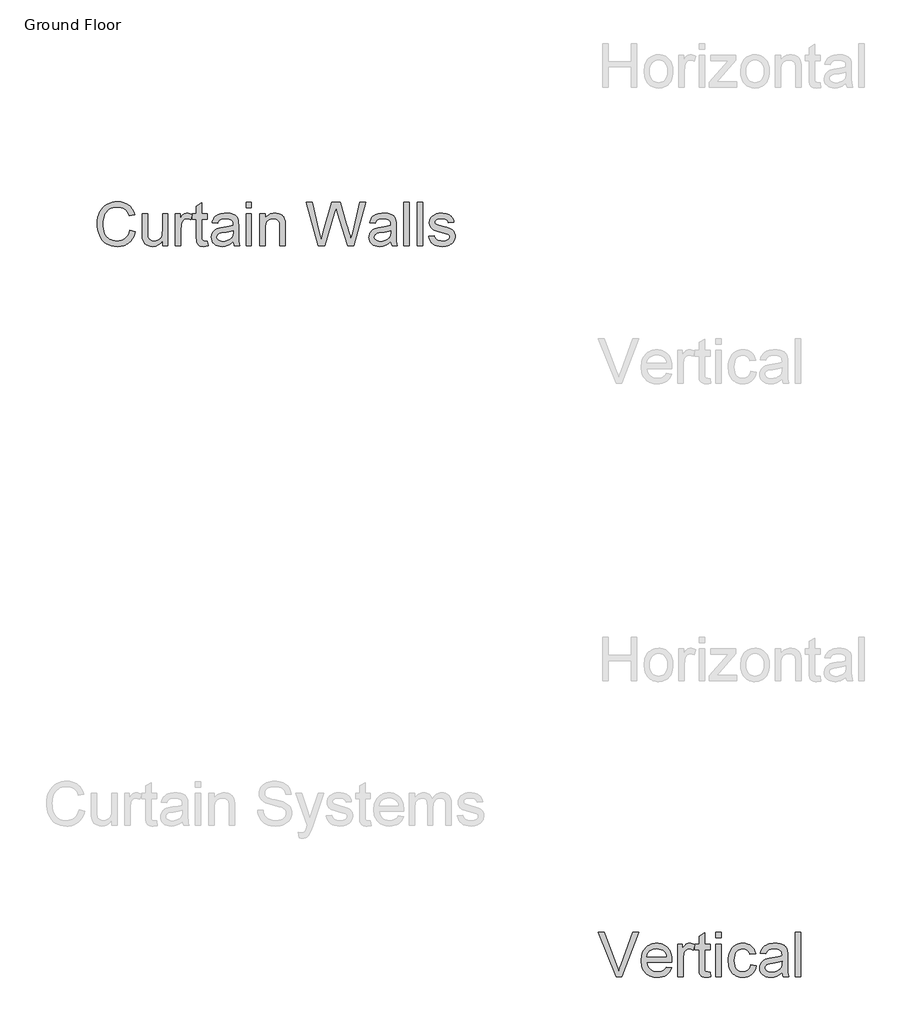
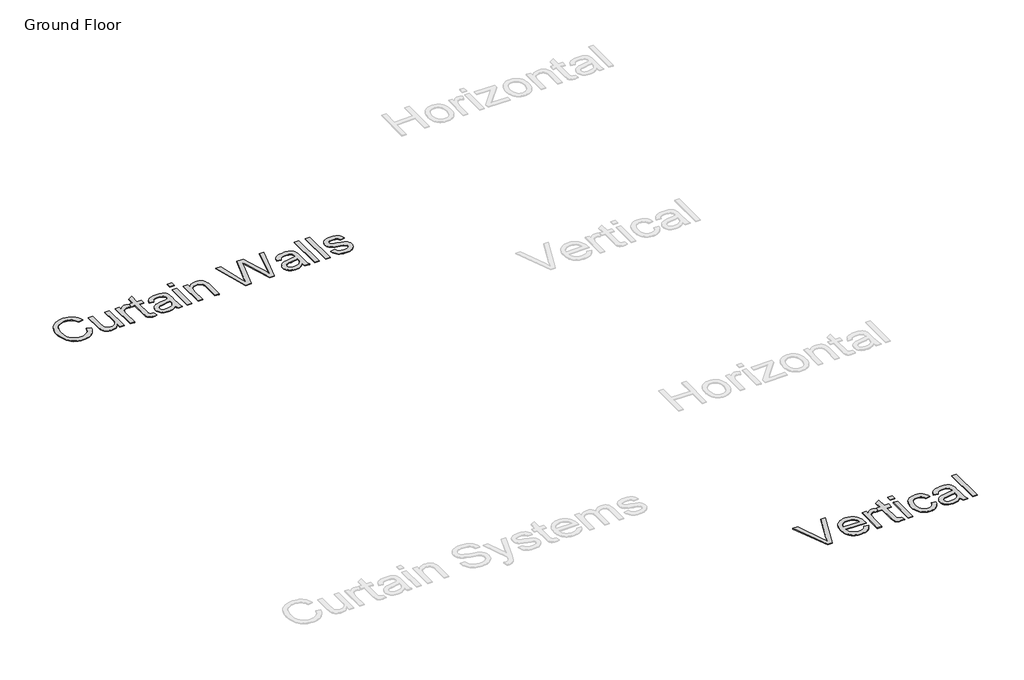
# One storey, part 4 of 12: 2 proxies.
"""IFC4 building model written with IfcOpenShell, lengths in millimetres."""

from ifc_helpers import new_model, si_unit, origin, origin_with_axes, place, context, project, spatial, polyline, outline, extrude, element, save

model = new_model("IFC4")

# Units and contexts
model_context = context("Model", 3, world=origin())
ifc_project = project(units=[si_unit("LENGTHUNIT", "METRE", prefix="MILLI")], contexts=[model_context])

# Site, building, storey
site = spatial("IfcSite", under=ifc_project)
building = spatial("IfcBuilding", under=site)
storey = spatial("IfcBuildingStorey", under=building, Name="Ground Floor", Elevation=0.0)

# Proxies
placement = place(None, origin())
element("IfcBuildingElementProxy", 1, Name="1200mm Arial", ObjectType="1200mm Arial", at=placement, inside=storey, context=model_context, shape_type="SweptSolid", body=[
    extrude(outline(polyline([(-30178.9270845, 12481.7519145), (-30032.0179936, 12443.8769145), (-30061.0877734, 12352.5160303), (-30079.2406942, 12311.1597403), (-30099.8056356, 12272.6862185), (-30122.7825976, 12237.0954647), (-30148.1715802, 12204.3874791), (-30175.9725834, 12174.5622616), (-30206.1856072, 12147.6198122), (-30238.48337, 12123.7125635), (-30272.5385902, 12102.9929479), (-30308.3512677, 12085.4609654), (-30345.9214027, 12071.1166162), (-30385.248995, 12059.9599001), (-30426.3340447, 12051.9908172), (-30469.1765518, 12047.2093674), (-30513.7765163, 12045.6155509), (-30603.3620099, 12050.439592), (-30684.1781498, 12064.9117156), (-30756.2249361, 12089.0319216), (-30819.5023686, 12122.8002099), (-30874.8802095, 12165.71445), (-30923.2282209, 12217.2725111), (-30964.5464027, 12277.4743932), (-30998.8347549, 12346.3200963), (-31025.7615128, 12420.8327028), (-31044.9949112, 12498.0352952), (-31056.5349503, 12577.9278733), (-31060.3816299, 12660.5104372), (-31056.0328196, 12749.1185693), (-31042.9863885, 12831.8804656), (-31021.2423366, 12908.7961261), (-30990.800664, 12979.8655509), (-30952.3428338, 13043.9141126), (-30906.5503089, 13099.7671844), (-30853.4230895, 13147.424766), (-30792.9611754, 13186.8868577), (-30727.2179226, 13217.8306609), (-30658.2466868, 13239.9333776), (-30586.047468, 13253.1950075), (-30510.6202663, 13257.6155509), (-30426.5940767, 13251.8948477), (-30349.5439169, 13234.7327384), (-30313.6348482, 13221.8611563), (-30279.4697869, 13206.1292227), (-30247.0487331, 13187.5369376), (-30216.3716868, 13166.0843009), (-30187.6986798, 13142.0358278), (-30161.2897443, 13115.6560338), (-30137.1448801, 13086.9449187), (-30115.2640873, 13055.9024827), (-30078.2947159, 12986.8236474), (-30050.3816299, 12908.4195281), (-30197.2907209, 12873.4138463), (-30220.4245987, 12931.1857746), (-30248.2211186, 12980.5470139), (-30280.6802805, 13021.4975643), (-30317.8020845, 13054.0374259), (-30359.8017294, 13078.8301283), (-30406.894414, 13096.5392014), (-30459.0801385, 13107.1646453), (-30516.3589027, 13110.7064599), (-30582.2635547, 13106.7790807), (-30642.5371697, 13094.9969429), (-30697.1797478, 13075.3600466), (-30746.191289, 13047.8683918), (-30788.9530966, 13013.7593719), (-30824.8464737, 12974.2703804), (-30853.8714204, 12929.4014173), (-30876.0279368, 12879.1524827), (-30892.4099503, 12825.8010977), (-30904.1113885, 12771.6247838), (-30911.1322514, 12716.6235409), (-30913.472539, 12660.797369), (-30910.7018537, 12590.6425395), (-30902.3897976, 12525.078619), (-30888.5363707, 12464.1056077), (-30869.1415731, 12407.7235054), (-30843.8915731, 12357.0531396), (-30812.472539, 12313.2153378), (-30774.8844709, 12276.2100999), (-30731.1273686, 12246.0374259), (-30683.326321, 12222.6255828), (-30633.6064169, 12205.9028378), (-30581.9676562, 12195.8691908), (-30528.410039, 12192.5246418), (-30464.5408096, 12197.0796844), (-30405.7825532, 12210.7448122), (-30352.1352699, 12233.5200253), (-30303.5989595, 12265.4053236), (-30261.3213494, 12306.2572412), (-30226.4501669, 12355.9323122), (-30198.9854119, 12414.4305366), (-30178.9270845, 12481.7519145)])), origin_with_axes(), (0.0, 0.0, 1.0), 20.0),
    extrude(outline(polyline([(-29297.472539, 12063.9791872), (-29297.472539, 12212.3229372), (-29322.9556711, 12173.2508935), (-29350.6266584, 12139.3884557), (-29380.4855007, 12110.7356236), (-29412.5321981, 12087.2923974), (-29446.7667507, 12069.0587771), (-29483.1891584, 12056.0347625), (-29521.7994211, 12048.2203538), (-29562.597539, 12045.6155509), (-29598.9930469, 12047.4447412), (-29634.1511612, 12052.9323122), (-29668.0718821, 12062.0782639), (-29700.7552095, 12074.8825963), (-29730.7575177, 12090.4486474), (-29756.6351811, 12107.8797554), (-29778.3881996, 12127.1759202), (-29796.0165731, 12148.3371418), (-29810.4259304, 12171.6682852), (-29822.5218998, 12197.4742156), (-29839.7736754, 12256.5104372), (-29846.2296413, 12312.1752099), (-29848.3816299, 12393.0899827), (-29848.3816299, 12927.0700963), (-29701.472539, 12927.0700963), (-29701.472539, 12462.2405509), (-29699.2488174, 12369.2746418), (-29692.5776527, 12312.4621418), (-29683.7813991, 12285.9837149), (-29671.1653657, 12262.5001389), (-29654.7295525, 12242.0114138), (-29634.4739595, 12224.5175395), (-29611.0083167, 12210.5206467), (-29584.9423544, 12200.5228662), (-29556.2760724, 12194.5241979), (-29525.0094709, 12192.5246418), (-29492.8103409, 12194.569031), (-29461.6334055, 12200.7021986), (-29431.4786647, 12210.9241446), (-29402.3461186, 12225.234869), (-29375.813892, 12243.0694749), (-29353.4601101, 12263.8630651), (-29335.2847727, 12287.6156396), (-29321.2878799, 12314.3271986), (-29310.8686683, 12345.7013996), (-29303.4263743, 12383.4419003), (-29298.9609978, 12427.5487007), (-29297.472539, 12478.0218009), (-29297.472539, 12927.0700963), (-29150.5634481, 12927.0700963), (-29150.5634481, 12063.9791872), (-29297.472539, 12063.9791872)])), origin_with_axes(), (0.0, 0.0, 1.0), 20.0),
    extrude(outline(polyline([(-28948.5634481, 12063.9791872), (-28948.5634481, 12927.0700963), (-28820.0179936, 12927.0700963), (-28820.0179936, 12799.3854372), (-28795.8081214, 12840.2014884), (-28772.5307777, 12873.4138463), (-28750.1859623, 12899.0225111), (-28728.7736754, 12917.0274827), (-28707.325522, 12929.455217), (-28684.8731072, 12938.3321702), (-28661.4164311, 12943.658342), (-28636.9554936, 12945.4337327), (-28600.5151527, 12942.600281), (-28563.7878799, 12934.0999259), (-28526.7736754, 12919.9326673), (-28489.472539, 12900.0985054), (-28538.5378799, 12768.3968009), (-28564.3617436, 12781.5777312), (-28590.1856072, 12790.9926815), (-28616.0094709, 12796.6416517), (-28641.8333345, 12798.5246418), (-28664.3485156, 12796.7133847), (-28685.6980362, 12791.2796134), (-28705.8818963, 12782.2233278), (-28724.9000959, 12769.5445281), (-28742.0353054, 12753.6556787), (-28756.5701953, 12734.969244), (-28768.5047656, 12713.4852241), (-28777.8390163, 12689.203619), (-28788.258228, 12649.1048974), (-28795.700522, 12607.141119), (-28801.6543572, 12517.6183918), (-28801.6543572, 12063.9791872), (-28948.5634481, 12063.9791872)])), origin_with_axes(), (0.0, 0.0, 1.0), 20.0),
    extrude(outline(polyline([(-28085.472539, 12186.4990736), (-28067.1089027, 12059.6752099), (-28125.2843288, 12049.1304656), (-28177.003789, 12045.6155509), (-28214.502191, 12047.1398761), (-28247.5172834, 12051.712852), (-28276.049066, 12059.3344784), (-28300.097539, 12070.0047554), (-28320.2903657, 12083.1498193), (-28337.2552095, 12098.1958065), (-28350.9920703, 12115.142717), (-28361.5009481, 12133.9905509), (-28369.2839737, 12159.2584841), (-28374.8432777, 12195.4656929), (-28379.2907209, 12300.6979372), (-28379.2907209, 12780.1610054), (-28489.472539, 12780.1610054), (-28489.472539, 12927.0700963), (-28379.2907209, 12927.0700963), (-28379.2907209, 13136.8172554), (-28232.3816299, 13223.1837327), (-28232.3816299, 12927.0700963), (-28085.472539, 12927.0700963), (-28085.472539, 12780.1610054), (-28232.3816299, 12780.1610054), (-28232.3816299, 12305.0019145), (-28230.4448402, 12256.6539031), (-28224.6344709, 12229.2519145), (-28214.4842578, 12214.0803946), (-28199.5279368, 12202.4237895), (-28178.3308487, 12194.9994287), (-28149.4583345, 12192.5246418), (-28085.472539, 12186.4990736)])), origin_with_axes(), (0.0, 0.0, 1.0), 20.0),
    extrude(outline(polyline([(-27387.6543572, 12174.1610054), (-27422.4896733, 12141.4687114), (-27457.8450532, 12113.9770565), (-27493.7204971, 12091.6860409), (-27530.1160049, 12074.5956645), (-27567.4440412, 12061.9168648), (-27606.1170703, 12052.8605793), (-27646.1350923, 12047.426808), (-27687.4981072, 12045.6155509), (-27752.9095951, 12049.9733278), (-27810.2690589, 12063.0466588), (-27859.5764986, 12084.8355437), (-27900.831914, 12115.3399827), (-27933.407642, 12152.6231858), (-27956.6760192, 12194.7483634), (-27970.6370454, 12241.7155153), (-27975.2907209, 12293.5246418), (-27973.5332635, 12324.6746773), (-27968.2608913, 12354.4259202), (-27959.4736044, 12382.7783705), (-27947.1714027, 12409.7320281), (-27932.0088494, 12434.6950963), (-27914.6405078, 12457.0757781), (-27895.0663778, 12476.8740736), (-27873.2864595, 12494.0899827), (-27824.6873828, 12522.0658349), (-27770.4214027, 12542.2945281), (-27717.5542152, 12553.556602), (-27643.3106072, 12564.3882781), (-27493.1018004, 12587.6297554), (-27435.1057067, 12600.7568861), (-27388.5151527, 12614.8882781), (-27387.6543572, 12647.5985054), (-27390.1829439, 12683.2139173), (-27397.7687038, 12713.1624259), (-27410.4116371, 12737.444031), (-27428.1117436, 12756.0587327), (-27458.7058487, 12774.6375679), (-27495.9711186, 12787.9081645), (-27539.9075532, 12795.8705224), (-27590.5151527, 12798.5246418), (-27637.5719709, 12796.7582178), (-27678.0293572, 12791.4589457), (-27711.8873118, 12782.6268257), (-27739.1458345, 12770.2618577), (-27761.5444496, 12753.3956467), (-27780.8226811, 12731.059798), (-27796.9805291, 12703.2543115), (-27810.0179936, 12669.9791872), (-27956.9270845, 12688.3428236), (-27945.7457102, 12730.6652668), (-27931.4260192, 12768.6837327), (-27913.9680113, 12802.3982213), (-27893.3716868, 12831.8087327), (-27868.7493501, 12857.5070636), (-27839.2133061, 12880.0850111), (-27804.7635547, 12899.542575), (-27765.4000959, 12915.8797554), (-27721.9209588, 12928.8096205), (-27675.1241726, 12938.0452384), (-27625.0097372, 12943.5866091), (-27571.5776527, 12945.4337327), (-27519.3470951, 12943.801808), (-27472.2633771, 12938.9060338), (-27430.3264986, 12930.7464102), (-27393.5364595, 12919.3229372), (-27361.5883949, 12905.4336439), (-27334.1774396, 12889.8765594), (-27311.3035937, 12872.6516837), (-27292.9668572, 12853.7590168), (-27278.1002024, 12832.7322945), (-27265.6366015, 12809.1052526), (-27247.9185618, 12754.0502099), (-27242.5385902, 12703.2632781), (-27240.7452663, 12625.5047554), (-27240.7452663, 12442.7291872), (-27238.8802095, 12283.5178946), (-27233.285039, 12187.5033349), (-27222.238164, 12124.4142014), (-27204.0179936, 12063.9791872), (-27350.9270845, 12063.9791872), (-27363.9824822, 12088.5118577), (-27374.4554936, 12115.0530509), (-27387.6543572, 12174.1610054)]), holes=[polyline([(-27387.6543572, 12467.9791872), (-27432.0570561, 12455.264521), (-27486.3589027, 12443.5182497), (-27624.660039, 12422.9308918), (-27700.8763032, 12411.6688179), (-27751.0535049, 12399.1155509), (-27783.9430646, 12382.8321702), (-27808.2964027, 12360.3797554), (-27823.3603231, 12333.4798974), (-27828.3816299, 12303.8541872), (-27825.6468111, 12281.0251744), (-27817.4423544, 12260.1688179), (-27803.7682599, 12241.2851176), (-27784.6245277, 12224.3740736), (-27760.19049, 12210.4399472), (-27730.6454794, 12200.4869997), (-27695.9894957, 12194.5152312), (-27656.222539, 12192.5246418), (-27615.6216868, 12194.7214635), (-27577.316289, 12201.3119287), (-27541.3063459, 12212.2960374), (-27507.5918572, 12227.6737895), (-27477.1770845, 12246.1719251), (-27451.066289, 12266.5171844), (-27429.2594709, 12288.7095672), (-27411.7566299, 12312.7490736), (-27401.5884836, 12334.2689599), (-27394.325522, 12360.3797554), (-27389.967745, 12391.0814599), (-27388.5151527, 12426.3740736), (-27387.6543572, 12467.9791872)])]), origin_with_axes(), (0.0, 0.0, 1.0), 20.0),
    extrude(outline(polyline([(-27038.7452663, 13092.3428236), (-27038.7452663, 13239.2519145), (-26891.8361754, 13239.2519145), (-26891.8361754, 13092.3428236), (-27038.7452663, 13092.3428236)])), origin_with_axes(), (0.0, 0.0, 1.0), 20.0),
    extrude(outline(polyline([(-27038.7452663, 12063.9791872), (-27038.7452663, 12927.0700963), (-26891.8361754, 12927.0700963), (-26891.8361754, 12063.9791872), (-27038.7452663, 12063.9791872)])), origin_with_axes(), (0.0, 0.0, 1.0), 20.0),
    extrude(outline(polyline([(-26671.472539, 12063.9791872), (-26671.472539, 12927.0700963), (-26524.5634481, 12927.0700963), (-26524.5634481, 12806.5587327), (-26500.3266761, 12839.1075608), (-26473.525451, 12867.3165452), (-26444.1597727, 12891.1856858), (-26412.2296413, 12910.7149827), (-26377.7350568, 12925.9044358), (-26340.6760192, 12936.7540452), (-26301.0525284, 12943.2638108), (-26258.8645845, 12945.4337327), (-26221.895213, 12943.6852419), (-26186.4501669, 12938.4397696), (-26152.529446, 12929.6973158), (-26120.1330504, 12917.4578804), (-26090.4894069, 12902.3760267), (-26064.8269424, 12885.1063179), (-26043.1456569, 12865.648754), (-26025.4455504, 12844.0033349), (-25998.7250248, 12794.256531), (-25981.4015163, 12735.9735054), (-25975.591147, 12680.2369997), (-25973.6543572, 12593.9422554), (-25973.6543572, 12063.9791872), (-26120.5634481, 12063.9791872), (-26120.5634481, 12574.1439599), (-26124.7956924, 12650.1091588), (-26130.0859978, 12679.8604017), (-26137.4924254, 12704.1240736), (-26147.5798721, 12724.558999), (-26160.9132351, 12742.8240026), (-26177.4925142, 12758.9190842), (-26197.3177095, 12772.844244), (-26219.7073579, 12784.079418), (-26243.9799964, 12792.1045423), (-26270.135625, 12796.9196169), (-26298.1742436, 12798.5246418), (-26342.7831747, 12794.9200608), (-26384.2179226, 12784.1063179), (-26422.4784872, 12766.0834131), (-26457.5648686, 12740.8513463), (-26473.2676607, 12724.8145477), (-26486.8767471, 12705.5407994), (-26498.392128, 12683.0301016), (-26507.8138032, 12657.2824543), (-26520.3760369, 12596.0763108), (-26524.5634481, 12521.922369), (-26524.5634481, 12063.9791872), (-26671.472539, 12063.9791872)])), origin_with_axes(), (0.0, 0.0, 1.0), 20.0),
    extrude(outline(polyline([(-25083.878789, 12063.9791872), (-25404.3816299, 13239.2519145), (-25252.8816299, 13239.2519145), (-25066.9498118, 12466.8314599), (-25009.5634481, 12228.391119), (-24948.160039, 12439.2860054), (-24715.1714027, 13239.2519145), (-24496.816289, 13239.2519145), (-24327.5265163, 12659.3627099), (-24288.8803871, 12551.8350111), (-24255.0044993, 12444.1638463), (-24225.898853, 12336.3492156), (-24201.5634481, 12228.391119), (-24145.8986754, 12459.9450963), (-23958.2452663, 13239.2519145), (-23806.7452663, 13239.2519145), (-24127.535039, 12063.9791872), (-24284.4867436, 12063.9791872), (-24566.253789, 12970.6837327), (-24605.5634481, 13097.2206645), (-24649.7509481, 12944.859869), (-24906.5549254, 12063.9791872), (-25083.878789, 12063.9791872)])), origin_with_axes(), (0.0, 0.0, 1.0), 20.0),
    extrude(outline(polyline([(-23127.2907209, 12174.1610054), (-23162.1260369, 12141.4687114), (-23197.4814169, 12113.9770565), (-23233.3568608, 12091.6860409), (-23269.7523686, 12074.5956645), (-23307.0804048, 12061.9168648), (-23345.7534339, 12052.8605793), (-23385.7714559, 12047.426808), (-23427.1344709, 12045.6155509), (-23492.5459588, 12049.9733278), (-23549.9054226, 12063.0466588), (-23599.2128622, 12084.8355437), (-23640.4682777, 12115.3399827), (-23673.0440057, 12152.6231858), (-23696.3123828, 12194.7483634), (-23710.2734091, 12241.7155153), (-23714.9270845, 12293.5246418), (-23713.1696271, 12324.6746773), (-23707.8972549, 12354.4259202), (-23699.109968, 12382.7783705), (-23686.8077663, 12409.7320281), (-23671.645213, 12434.6950963), (-23654.2768714, 12457.0757781), (-23634.7027415, 12476.8740736), (-23612.9228231, 12494.0899827), (-23564.3237464, 12522.0658349), (-23510.0577663, 12542.2945281), (-23457.1905788, 12553.556602), (-23382.9469709, 12564.3882781), (-23232.738164, 12587.6297554), (-23174.7420703, 12600.7568861), (-23128.1515163, 12614.8882781), (-23127.2907209, 12647.5985054), (-23129.8193075, 12683.2139173), (-23137.4050674, 12713.1624259), (-23150.0480007, 12737.444031), (-23167.7481072, 12756.0587327), (-23198.3422123, 12774.6375679), (-23235.6074822, 12787.9081645), (-23279.5439169, 12795.8705224), (-23330.1515163, 12798.5246418), (-23377.2083345, 12796.7582178), (-23417.6657209, 12791.4589457), (-23451.5236754, 12782.6268257), (-23478.7821981, 12770.2618577), (-23501.1808132, 12753.3956467), (-23520.4590447, 12731.059798), (-23536.6168927, 12703.2543115), (-23549.6543572, 12669.9791872), (-23696.5634481, 12688.3428236), (-23685.3820738, 12730.6652668), (-23671.0623828, 12768.6837327), (-23653.604375, 12802.3982213), (-23633.0080504, 12831.8087327), (-23608.3857138, 12857.5070636), (-23578.8496697, 12880.0850111), (-23544.3999183, 12899.542575), (-23505.0364595, 12915.8797554), (-23461.5573224, 12928.8096205), (-23414.7605362, 12938.0452384), (-23364.6461008, 12943.5866091), (-23311.2140163, 12945.4337327), (-23258.9834588, 12943.801808), (-23211.8997407, 12938.9060338), (-23169.9628622, 12930.7464102), (-23133.1728231, 12919.3229372), (-23101.2247585, 12905.4336439), (-23073.8138032, 12889.8765594), (-23050.9399574, 12872.6516837), (-23032.6032209, 12853.7590168), (-23017.736566, 12832.7322945), (-23005.2729652, 12809.1052526), (-22987.5549254, 12754.0502099), (-22982.1749538, 12703.2632781), (-22980.3816299, 12625.5047554), (-22980.3816299, 12442.7291872), (-22978.5165731, 12283.5178946), (-22972.9214027, 12187.5033349), (-22961.8745277, 12124.4142014), (-22943.6543572, 12063.9791872), (-23090.5634481, 12063.9791872), (-23103.6188459, 12088.5118577), (-23114.0918572, 12115.0530509), (-23127.2907209, 12174.1610054)]), holes=[polyline([(-23127.2907209, 12467.9791872), (-23171.6934197, 12455.264521), (-23225.9952663, 12443.5182497), (-23364.2964027, 12422.9308918), (-23440.5126669, 12411.6688179), (-23490.6898686, 12399.1155509), (-23523.5794282, 12382.8321702), (-23547.9327663, 12360.3797554), (-23562.9966868, 12333.4798974), (-23568.0179936, 12303.8541872), (-23565.2831747, 12281.0251744), (-23557.078718, 12260.1688179), (-23543.4046236, 12241.2851176), (-23524.2608913, 12224.3740736), (-23499.8268537, 12210.4399472), (-23470.281843, 12200.4869997), (-23435.6258594, 12194.5152312), (-23395.8589027, 12192.5246418), (-23355.2580504, 12194.7214635), (-23316.9526527, 12201.3119287), (-23280.9427095, 12212.2960374), (-23247.2282209, 12227.6737895), (-23216.8134481, 12246.1719251), (-23190.7026527, 12266.5171844), (-23168.8958345, 12288.7095672), (-23151.3929936, 12312.7490736), (-23141.2248473, 12334.2689599), (-23133.9618856, 12360.3797554), (-23129.6041086, 12391.0814599), (-23128.1515163, 12426.3740736), (-23127.2907209, 12467.9791872)])]), origin_with_axes(), (0.0, 0.0, 1.0), 20.0),
    extrude(outline(polyline([(-22778.3816299, 12063.9791872), (-22778.3816299, 13239.2519145), (-22631.472539, 13239.2519145), (-22631.472539, 12063.9791872), (-22778.3816299, 12063.9791872)])), origin_with_axes(), (0.0, 0.0, 1.0), 20.0),
    extrude(outline(polyline([(-22411.1089027, 12063.9791872), (-22411.1089027, 13239.2519145), (-22264.1998118, 13239.2519145), (-22264.1998118, 12063.9791872), (-22411.1089027, 12063.9791872)])), origin_with_axes(), (0.0, 0.0, 1.0), 20.0),
    extrude(outline(polyline([(-22098.9270845, 12321.0700963), (-21952.0179936, 12339.4337327), (-21943.1410405, 12305.9344429), (-21928.8482493, 12276.5956645), (-21909.13962, 12251.4173974), (-21884.0151527, 12230.3996418), (-21853.4031143, 12213.8293293), (-21817.231772, 12201.9933918), (-21775.5011257, 12194.8918293), (-21728.2111754, 12192.5246418), (-21680.9750248, 12194.6945636), (-21640.2665731, 12201.2043293), (-21606.0858203, 12212.0539386), (-21578.4327663, 12227.2433918), (-21557.0922123, 12245.3559628), (-21541.8489595, 12264.9749259), (-21532.7030078, 12286.100281), (-21529.6543572, 12308.7320281), (-21532.720941, 12328.5661901), (-21541.9206924, 12346.1766304), (-21557.2536115, 12361.5633491), (-21578.7196981, 12374.7263463), (-21633.7388743, 12393.3769145), (-21729.9327663, 12416.6183918), (-21864.0016584, 12455.3900537), (-21951.1571981, 12488.4948122), (-21981.0788068, 12505.0920246), (-22007.1447692, 12524.6123548), (-22029.3550852, 12547.055803), (-22047.7097549, 12572.422369), (-22062.0832457, 12599.9498903), (-22072.3500248, 12628.8762043), (-22078.5100923, 12659.2013108), (-22080.5634481, 12690.9252099), (-22078.9135902, 12719.9322234), (-22073.9640163, 12747.8453094), (-22065.7147265, 12774.6644678), (-22054.1657209, 12800.3896986), (-22039.7653302, 12824.5009379), (-22022.9618856, 12846.4781219), (-22003.7553871, 12866.3212504), (-21982.1458345, 12884.0303236), (-21941.5808487, 12907.6663321), (-21888.7495277, 12927.500494), (-21827.6689169, 12940.950423), (-21762.3560618, 12945.4337327), (-21712.9858558, 12943.6314422), (-21666.7360334, 12938.2245707), (-21623.6065944, 12929.2131183), (-21583.597539, 12916.5970849), (-21547.6593288, 12900.9055011), (-21516.7424254, 12882.6673974), (-21490.8468288, 12861.8827739), (-21469.972539, 12838.5516304), (-21453.0435618, 12811.8580047), (-21438.9839027, 12780.9859344), (-21427.7935618, 12745.9354195), (-21419.472539, 12706.7064599), (-21566.3816299, 12688.3428236), (-21573.3845596, 12712.8844607), (-21584.9245987, 12734.5747128), (-21601.0017471, 12753.41358), (-21621.6160049, 12769.4010622), (-21646.8570383, 12782.1426283), (-21676.8145135, 12791.2437469), (-21711.4884304, 12796.704418), (-21750.878789, 12798.5246418), (-21796.5726811, 12796.7851176), (-21835.2367436, 12791.5665452), (-21866.8709765, 12782.8689244), (-21891.4753799, 12770.6922554), (-21909.9286825, 12756.2021986), (-21923.1096129, 12740.5644145), (-21931.0181711, 12723.7789031), (-21933.6543572, 12705.8456645), (-21929.278647, 12683.2497838), (-21916.1515163, 12663.0928236), (-21893.6991015, 12645.087852), (-21861.347539, 12630.6695281), (-21734.8106072, 12599.3939599), (-21605.009826, 12561.0168293), (-21519.1813459, 12530.2433918), (-21488.981772, 12515.233271), (-21462.2253799, 12497.1744997), (-21438.9121697, 12476.0670778), (-21419.0421413, 12451.9110054), (-21403.1622585, 12424.6704159), (-21391.8194851, 12394.3094429), (-21385.013821, 12360.8280864), (-21382.7452663, 12324.2263463), (-21385.4083522, 12287.4632071), (-21393.3976101, 12251.7760622), (-21406.7130397, 12217.1649116), (-21425.3546413, 12183.6297554), (-21449.0175497, 12152.5066197), (-21477.3968998, 12125.131531), (-21510.4926917, 12101.5044891), (-21548.3049254, 12081.625494), (-21589.8024396, 12065.8711439), (-21633.9540731, 12054.6180366), (-21680.759826, 12047.8661723), (-21730.2196981, 12045.6155509), (-21809.2873473, 12049.9553946), (-21878.3482493, 12062.9749259), (-21937.4024041, 12084.6741446), (-21986.4498118, 12115.0530509), (-22026.5126669, 12153.9681787), (-22058.613164, 12201.2760622), (-22082.7513032, 12256.9767014), (-22098.9270845, 12321.0700963)])), origin_with_axes(), (0.0, 0.0, 1.0), 20.0),
])
element("IfcBuildingElementProxy", 2, Name="1200mm Arial", ObjectType="1200mm Arial", at=placement, inside=storey, context=model_context, shape_type="SweptSolid", body=[
    extrude(outline(polyline([(-17030.2482205, -7700.5952157), (-17509.9663422, -6495.1194939), (-17348.6868755, -6495.1194939), (-17027.5994701, -7363.6153081), (-16991.9149166, -7464.7828568), (-16962.5579334, -7559.3285295), (-16932.6859154, -7461.3983424), (-16898.3993134, -7363.6153081), (-16576.4289912, -6495.1194939), (-16415.1495246, -6495.1194939), (-16874.5605601, -7700.5952157), (-17030.2482205, -7700.5952157)])), origin_with_axes(), (0.0, 0.0, 1.0), 20.0),
    extrude(outline(polyline([(-15674.0880335, -7436.8974015), (-15526.3466242, -7455.7329597), (-15548.9989581, -7514.9067786), (-15579.5791489, -7567.0540514), (-15618.0871968, -7612.1747781), (-15664.5231016, -7650.2689587), (-15718.4086168, -7680.5272528), (-15779.2654959, -7702.1403201), (-15847.0937387, -7715.1081604), (-15921.8933454, -7719.4307738), (-15969.9157414, -7717.566072), (-16015.3905545, -7711.9719664), (-16058.3177848, -7702.6484571), (-16098.6974323, -7689.595544), (-16136.529497, -7672.8132273), (-16171.8139788, -7652.3015068), (-16204.5508779, -7628.0603825), (-16234.7401941, -7600.0898546), (-16261.8484986, -7568.7532064), (-16285.3423626, -7534.4137214), (-16305.2217859, -7497.0713996), (-16321.4867686, -7456.7262411), (-16334.1373107, -7413.3782457), (-16343.1734122, -7367.0274136), (-16348.5950731, -7317.6737447), (-16350.4022934, -7265.317239), (-16348.576679, -7211.1788049), (-16343.0998358, -7160.1581707), (-16333.9717638, -7112.2553364), (-16321.192463, -7067.470302), (-16304.7619334, -7025.8030675), (-16284.680175, -6987.2536329), (-16260.9471877, -6951.8219983), (-16233.5629717, -6919.5081635), (-16203.2678894, -6890.6754122), (-16170.8023034, -6865.6870276), (-16136.1662135, -6844.54301), (-16099.3596199, -6827.2433591), (-16060.3825225, -6813.7880752), (-16019.2349213, -6804.177158), (-15975.9168164, -6798.4106078), (-15930.4282077, -6796.4884243), (-15886.4272218, -6798.4060092), (-15844.4817766, -6804.1587639), (-15804.591872, -6813.7466884), (-15766.7575081, -6827.1697827), (-15730.9786848, -6844.4280468), (-15697.2554021, -6865.5214807), (-15665.5876601, -6890.4500844), (-15635.9754588, -6919.2138579), (-15609.1775547, -6951.4541163), (-15585.9527045, -6986.8121745), (-15566.3009081, -7025.2880327), (-15550.2221657, -7066.8816908), (-15537.7164771, -7111.5931488), (-15528.7838424, -7159.4224067), (-15523.4242616, -7210.3694645), (-15521.6377347, -7264.4343222), (-15522.5206515, -7305.0484945), (-16199.7178282, -7305.0484945), (-16190.9898278, -7365.1788066), (-16173.6349947, -7417.8411142), (-16147.6533288, -7463.0354173), (-16113.0448301, -7500.7617159), (-16071.722485, -7530.5049752), (-16025.5992799, -7551.7501604), (-15974.6752147, -7564.4972716), (-15918.9502895, -7568.7463086), (-15877.2692594, -7566.7781399), (-15838.7520145, -7560.8736339), (-15803.3985548, -7551.0327905), (-15771.2088802, -7537.2556098), (-15742.1829908, -7519.1742098), (-15716.3208865, -7496.4207084), (-15693.6225674, -7468.9951056), (-15674.0880335, -7436.8974015)]), holes=[polyline([(-16199.7178282, -7154.3640292), (-15672.3221999, -7154.3640292), (-15680.0661159, -7111.726506), (-15692.7028624, -7074.7543655), (-15710.2324395, -7043.4476077), (-15732.6548471, -7017.8062326), (-15773.747266, -6986.904145), (-15820.5050675, -6964.8312253), (-15872.9282519, -6951.5874735), (-15931.0168189, -6947.1728896), (-15984.0010233, -6950.6953597), (-16032.5890378, -6961.26277), (-16076.7808624, -6978.8751205), (-16116.5764973, -7003.5324112), (-16149.9709854, -7034.094208), (-16174.9593699, -7069.4200766), (-16191.5416508, -7109.510017), (-16199.7178282, -7154.3640292)])]), origin_with_axes(), (0.0, 0.0, 1.0), 20.0),
    extrude(outline(polyline([(-15370.9532694, -7700.5952157), (-15370.9532694, -6815.3239825), (-15239.1043624, -6815.3239825), (-15239.1043624, -6946.2899728), (-15214.2723277, -6904.4250017), (-15190.3967862, -6870.359129), (-15167.4777379, -6844.0923545), (-15145.5151828, -6825.6246784), (-15123.5158395, -6812.8775672), (-15100.4864266, -6803.7724878), (-15076.4269441, -6798.3094402), (-15051.337392, -6796.4884243), (-15013.9605813, -6799.3946921), (-14976.289465, -6808.1134954), (-14938.3240431, -6822.6448342), (-14900.0643156, -6842.9887085), (-14950.3905726, -6978.0749772), (-14976.8780762, -6964.5553138), (-15003.3655799, -6954.8984115), (-15029.8530835, -6949.10427), (-15056.3405872, -6947.1728896), (-15079.4343794, -6949.0306936), (-15101.3325552, -6954.6041059), (-15122.0351145, -6963.8931262), (-15141.5420572, -6976.8977548), (-15159.1176196, -6993.1949272), (-15174.0260374, -7012.3615791), (-15186.2673108, -7034.3977106), (-15195.8414397, -7059.3033217), (-15206.5284117, -7100.4325288), (-15214.1619631, -7143.4747222), (-15220.2688042, -7235.2980682), (-15220.2688042, -7700.5952157), (-15370.9532694, -7700.5952157)])), origin_with_axes(), (0.0, 0.0, 1.0), 20.0),
    extrude(outline(polyline([(-14485.6820362, -7574.9267261), (-14466.8464781, -7705.0097996), (-14526.5169377, -7715.8255303), (-14579.5655214, -7719.4307738), (-14618.027584, -7717.8672754), (-14651.8911217, -7713.1767799), (-14681.1561344, -7705.3592875), (-14705.8226222, -7694.4147982), (-14726.5343785, -7680.931923), (-14743.9351969, -7665.4992733), (-14758.0250773, -7648.1168491), (-14768.8040197, -7628.7846502), (-14776.787059, -7602.8673637), (-14782.48923, -7565.7296763), (-14787.0509667, -7457.7930989), (-14787.0509667, -6966.0084477), (-14900.0643156, -6966.0084477), (-14900.0643156, -6815.3239825), (-14787.0509667, -6815.3239825), (-14787.0509667, -6600.1865917), (-14636.3665015, -6511.6006073), (-14636.3665015, -6815.3239825), (-14485.6820362, -6815.3239825), (-14485.6820362, -6966.0084477), (-14636.3665015, -6966.0084477), (-14636.3665015, -7453.3785149), (-14634.3799387, -7502.9690079), (-14628.4202504, -7531.0751923), (-14618.0091899, -7546.6366007), (-14602.6685107, -7558.5927655), (-14580.9266848, -7566.2079228), (-14551.3121842, -7568.7463086), (-14485.6820362, -7574.9267261)])), origin_with_axes(), (0.0, 0.0, 1.0), 20.0),
    extrude(outline(polyline([(-14334.997571, -7700.5952157), (-14334.997571, -6815.3239825), (-14184.3131058, -6815.3239825), (-14184.3131058, -7700.5952157), (-14334.997571, -7700.5952157)])), origin_with_axes(), (0.0, 0.0, 1.0), 20.0),
    extrude(outline(polyline([(-14334.997571, -6645.8039591), (-14334.997571, -6495.1194939), (-14184.3131058, -6495.1194939), (-14184.3131058, -6645.8039591), (-14334.997571, -6645.8039591)])), origin_with_axes(), (0.0, 0.0, 1.0), 20.0),
    extrude(outline(polyline([(-13393.2196634, -7380.3907271), (-13242.5351981, -7399.2262852), (-13258.924341, -7470.3286779), (-13284.547322, -7533.2456961), (-13319.404141, -7587.9773399), (-13363.4947982, -7634.5236093), (-13414.9614893, -7671.6704938), (-13471.9464103, -7698.2039827), (-13534.4495613, -7714.1240761), (-13602.4709422, -7719.4307738), (-13645.8189376, -7717.5798675), (-13686.9826336, -7712.0271487), (-13725.9620302, -7702.7726172), (-13762.7571275, -7689.8162732), (-13797.3679255, -7673.1581166), (-13829.7944241, -7652.7981475), (-13860.0366234, -7628.7363657), (-13888.0945233, -7600.9727714), (-13913.3749141, -7569.7510863), (-13935.2845862, -7535.3150323), (-13953.8235395, -7497.6646094), (-13968.991774, -7456.7998175), (-13980.7892898, -7412.7206567), (-13989.2160867, -7365.4271269), (-13994.2721649, -7314.9192283), (-13995.9575243, -7261.1969606), (-13993.0788477, -7191.9155839), (-13984.4428178, -7127.1039734), (-13970.0494348, -7066.7621291), (-13949.8986985, -7010.8900511), (-13923.8526532, -6960.6097794), (-13891.7733432, -6917.0433542), (-13853.6607685, -6880.1907753), (-13809.5149291, -6850.0520428), (-13761.3315848, -6826.6179597), (-13711.1064954, -6809.879329), (-13658.8396609, -6799.8361505), (-13604.5310814, -6796.4884243), (-13537.6777258, -6801.0869493), (-13477.2071229, -6814.8825241), (-13423.1192725, -6837.8751488), (-13375.4141748, -6870.0648234), (-13334.9011701, -6910.7157838), (-13302.3895988, -6959.0922662), (-13277.8794608, -7015.1942705), (-13261.3707563, -7079.0217966), (-13412.0552215, -7097.8573548), (-13423.8182483, -7062.6602449), (-13439.3888538, -7032.1168422), (-13458.7670379, -7006.2271468), (-13481.9528006, -6984.9911587), (-13508.3575308, -6968.4456659), (-13537.3926173, -6956.6274568), (-13569.05806, -6949.5365314), (-13603.353859, -6947.1728896), (-13654.5538357, -6951.8265968), (-13700.7322231, -6965.7877185), (-13741.8890213, -6989.0562547), (-13778.0242303, -7021.6322054), (-13793.7856746, -7041.5990007), (-13807.4455929, -7064.2697286), (-13828.4608519, -7117.7229825), (-13841.0700072, -7181.9919671), (-13845.273059, -7257.0766823), (-13841.1619777, -7333.2926346), (-13828.8287339, -7398.3065802), (-13808.2733274, -7452.1185191), (-13794.9123132, -7474.823736), (-13779.4957583, -7494.7284512), (-13744.0779192, -7527.1112638), (-13703.6017027, -7550.2418443), (-13658.0671087, -7564.1201925), (-13607.4741374, -7568.7463086), (-13566.7036152, -7565.8584349), (-13529.4463662, -7557.194814), (-13495.7023902, -7542.7554457), (-13465.4716872, -7522.54033), (-13439.6003859, -7496.3287379), (-13418.9346148, -7463.89994), (-13403.474374, -7425.2539364), (-13393.2196634, -7380.3907271)])), origin_with_axes(), (0.0, 0.0, 1.0), 20.0),
    extrude(outline(polyline([(-12545.6195465, -7587.5818668), (-12581.3500853, -7621.1143106), (-12617.6140529, -7649.3124656), (-12654.4114495, -7672.1763316), (-12691.742275, -7689.7059086), (-12730.0295936, -7702.7105372), (-12769.6964697, -7711.9995575), (-12810.7429034, -7717.5729698), (-12853.1688945, -7719.4307738), (-12920.2613733, -7714.9610076), (-12979.0949014, -7701.5517089), (-13029.6694787, -7679.2028777), (-13071.9851052, -7647.914514), (-13105.3979874, -7609.6731806), (-13129.2643318, -7566.4654402), (-13143.5841385, -7518.291293), (-13148.3574074, -7465.1507388), (-13146.5547856, -7433.2001875), (-13141.1469203, -7402.684376), (-13132.1338114, -7373.6033043), (-13119.515459, -7345.9569723), (-13103.9632476, -7320.3523855), (-13086.148562, -7297.396549), (-13066.0714021, -7277.0894628), (-13043.731768, -7259.4311271), (-12993.8837576, -7230.7363314), (-12938.2232117, -7209.9877869), (-12883.9974056, -7198.4362923), (-12807.8458326, -7187.326256), (-12653.7768531, -7163.4875027), (-12594.2903344, -7150.0230217), (-12546.5024633, -7135.5284711), (-12545.6195465, -7101.9776331), (-12548.2131145, -7065.446951), (-12555.9938187, -7034.7288044), (-12568.9616591, -7009.8231933), (-12587.1166355, -6990.7301178), (-12618.4969697, -6971.6738304), (-12656.719909, -6958.0621966), (-12701.7854534, -6949.8952163), (-12753.693603, -6947.1728896), (-12801.9597207, -6948.9847084), (-12843.4568098, -6954.4201649), (-12878.1848701, -6963.479259), (-12906.1439018, -6976.1619908), (-12929.1181324, -6993.4616416), (-12948.8917896, -7016.3714929), (-12965.4648735, -7044.8915445), (-12978.837384, -7079.0217966), (-13129.5218492, -7060.1862385), (-13118.053128, -7016.776163), (-13103.3654394, -6977.7806716), (-13085.4587833, -6943.199764), (-13064.3331597, -6913.0334404), (-13039.0780607, -6886.6746955), (-13008.7829784, -6863.5165239), (-12973.4479128, -6843.5589256), (-12933.0728638, -6826.8019007), (-12888.4763689, -6813.5397548), (-12840.4769656, -6804.0667934), (-12789.0746538, -6798.3830166), (-12734.2694336, -6796.4884243), (-12680.6966181, -6798.1622874), (-12632.4029091, -6803.1838766), (-12589.3883069, -6811.553192), (-12551.6528112, -6823.2702336), (-12518.8837225, -6837.5164638), (-12490.768341, -6853.4733454), (-12467.3066668, -6871.1408782), (-12448.4986998, -6890.5190623), (-12433.2499911, -6912.0861443), (-12420.4660917, -6936.3203707), (-12402.2927212, -6992.790257), (-12396.7744912, -7044.8823475), (-12394.9350813, -7124.639164), (-12394.9350813, -7312.1118288), (-12393.0220949, -7475.4146464), (-12387.2831358, -7573.8966565), (-12375.9523703, -7638.6070995), (-12357.263965, -7700.5952157), (-12507.9484302, -7700.5952157), (-12521.3393348, -7675.4320872), (-12532.0814891, -7648.2088196), (-12545.6195465, -7587.5818668)]), holes=[polyline([(-12545.6195465, -7286.2129363), (-12591.1633375, -7299.254353), (-12646.8606716, -7311.3024884), (-12788.7159689, -7332.4189149), (-12866.8908929, -7343.9704096), (-12918.357584, -7356.8462794), (-12952.092363, -7373.548122), (-12977.0715504, -7396.5775349), (-12992.5225942, -7424.1686845), (-12997.6729422, -7454.5557373), (-12994.8678419, -7477.9714263), (-12986.4525413, -7499.3637643), (-12972.4270402, -7518.7327514), (-12952.7913387, -7536.0783874), (-12927.7293778, -7550.370603), (-12897.4250985, -7560.5793283), (-12861.8785007, -7566.7045635), (-12821.0895845, -7568.7463086), (-12779.4453426, -7566.4930314), (-12740.1555455, -7559.7331997), (-12703.2201932, -7548.4668136), (-12668.6392857, -7532.6938731), (-12637.4428925, -7513.7203592), (-12610.6610832, -7492.852253), (-12588.2938579, -7470.0895546), (-12570.3412166, -7445.4322638), (-12559.911762, -7423.3593441), (-12552.4621516, -7396.5775349), (-12547.9923854, -7365.0868361), (-12546.5024633, -7328.8872478), (-12545.6195465, -7286.2129363)])]), origin_with_axes(), (0.0, 0.0, 1.0), 20.0),
    extrude(outline(polyline([(-12187.7439416, -7700.5952157), (-12187.7439416, -6495.1194939), (-12037.0594764, -6495.1194939), (-12037.0594764, -7700.5952157), (-12187.7439416, -7700.5952157)])), origin_with_axes(), (0.0, 0.0, 1.0), 20.0),
])

save(model, "model.ifc")
